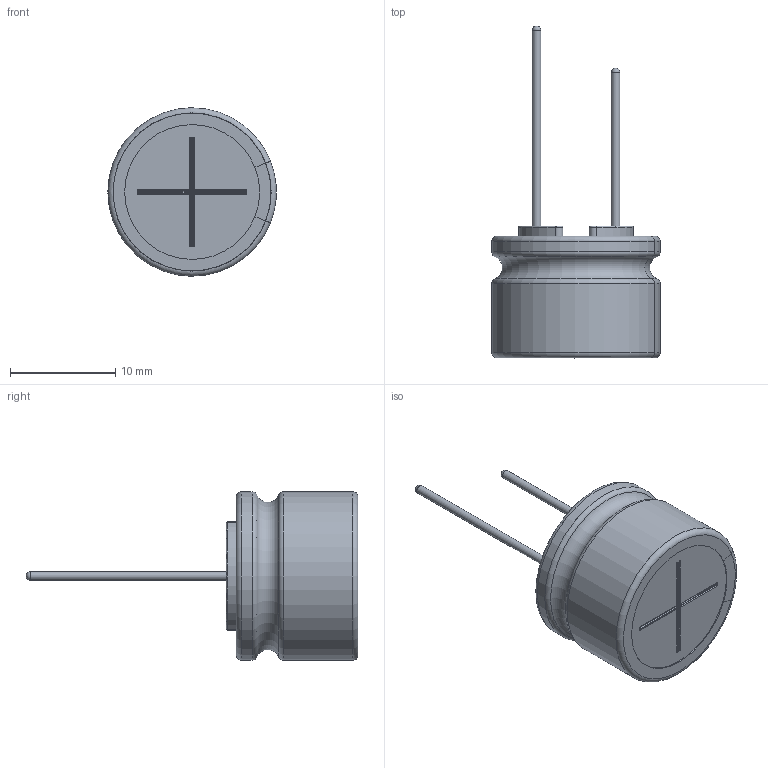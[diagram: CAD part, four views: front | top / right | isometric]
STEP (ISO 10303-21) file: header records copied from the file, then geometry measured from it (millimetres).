
FILE_DESCRIPTION(/* description */ (''),/* implementation_level */ '2;1');
FILE_NAME(/* name */ '16x12.5_Lead.stp',/* time_stamp */ '2017-08-31T15:06:00+09:00',/* author */ (''),/* organization */ (''),/* preprocessor_version */ 'ST-DEVELOPER v16',/* originating_system */ 'SIEMENS PLM Software NX 11.0',/* authorisation */ '');
FILE_SCHEMA (('AUTOMOTIVE_DESIGN { 1 0 10303 214 3 1 1 1 }'));
Length unit declared in the file: millimetre
Products named in the file (1): 16x12.5_Lead_igsstp
Bounding box: 15.98 x 31.5 x 16 mm (x, y, z)
Volume: 2275.5 mm3; surface area: 2570.3 mm2
Topology: 3 solids, 3 shells, 132 faces, 328 edges, 205 vertices
Faces by surface type: cylinder 50, torus 35, plane 33, sphere 6, bspline 6, extrusion 2
Full cylindrical faces by diameter (mm): 0.8 x2, 15.8 x2
Entity records: 5217 total; most frequent: CARTESIAN_POINT 1367, DIRECTION 748, ORIENTED_EDGE 624, EDGE_CURVE 312, AXIS2_PLACEMENT_3D 311, VERTEX_POINT 200, CIRCLE 174, EDGE_LOOP 146
